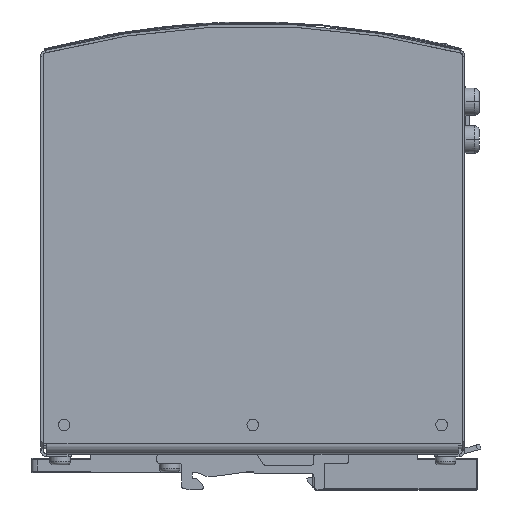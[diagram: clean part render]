
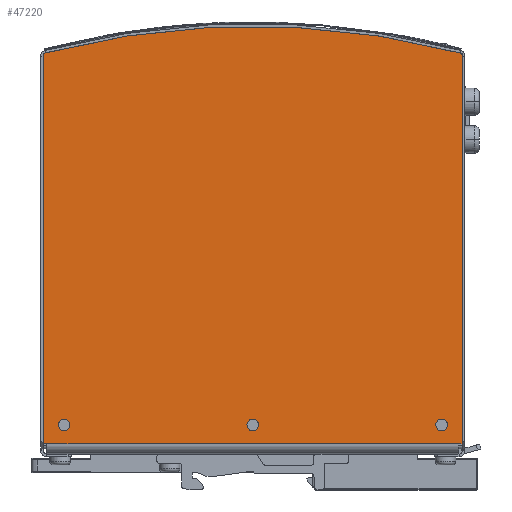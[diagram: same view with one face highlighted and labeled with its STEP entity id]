
A CAD part, left-side view. The second image highlights one B-rep face of the part: STEP entity #47220.
In plain terms, the highlighted planar face has unit normal (-1, 0, 0).
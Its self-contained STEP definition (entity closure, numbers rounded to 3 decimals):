
#170 = DIRECTION ( 'NONE',  ( 0., 0., -1. ) ) ;
#777 = CARTESIAN_POINT ( 'NONE',  ( -48., 8.5, 55.15 ) ) ;
#874 = CARTESIAN_POINT ( 'NONE',  ( -48., 3., 61.15 ) ) ;
#2914 = CARTESIAN_POINT ( 'NONE',  ( -48., 8.5, 1.7 ) ) ;
#4148 = VERTEX_POINT ( 'NONE', #54400 ) ;
#7259 = EDGE_CURVE ( 'NONE', #4148, #84003, #104510, .T. ) ;
#7661 = DIRECTION ( 'NONE',  ( -1., 0., 0. ) ) ;
#8091 = DIRECTION ( 'NONE',  ( -1., 0., 0. ) ) ;
#9136 = VERTEX_POINT ( 'NONE', #141462 ) ;
#10450 = EDGE_CURVE ( 'NONE', #23238, #52235, #66442, .T. ) ;
#10771 = CIRCLE ( 'NONE', #93015, 1.7 ) ;
#10894 = VERTEX_POINT ( 'NONE', #129453 ) ;
#12670 = EDGE_CURVE ( 'NONE', #9136, #50861, #101268, .T. ) ;
#13833 = DIRECTION ( 'NONE',  ( 0., 0., 1. ) ) ;
#15401 = AXIS2_PLACEMENT_3D ( 'NONE', #82948, #93263, #13833 ) ;
#16248 = FACE_BOUND ( 'NONE', #139856, .T. ) ;
#23238 = VERTEX_POINT ( 'NONE', #80332 ) ;
#25424 = CARTESIAN_POINT ( 'NONE',  ( -48., 3., 61.15 ) ) ;
#25469 = EDGE_CURVE ( 'NONE', #121092, #122826, #10771, .T. ) ;
#25876 = ORIENTED_EDGE ( 'NONE', *, *, #117647, .T. ) ;
#25894 = ORIENTED_EDGE ( 'NONE', *, *, #39183, .F. ) ;
#27657 = CARTESIAN_POINT ( 'NONE',  ( -48., 8.5, 53.45 ) ) ;
#29979 = CARTESIAN_POINT ( 'NONE',  ( -48., 3., 61.15 ) ) ;
#31127 = VECTOR ( 'NONE', #113995, 1000. ) ;
#33313 = EDGE_LOOP ( 'NONE', ( #49100, #25894 ) ) ;
#34997 = CIRCLE ( 'NONE', #110243, 1.7 ) ;
#39183 = EDGE_CURVE ( 'NONE', #122826, #121092, #34997, .T. ) ;
#39931 = ORIENTED_EDGE ( 'NONE', *, *, #12670, .T. ) ;
#41164 = DIRECTION ( 'NONE',  ( 1., 0., 0. ) ) ;
#47220 = ADVANCED_FACE ( 'NONE', ( #137641, #16248, #81701, #138373 ), #116283, .F. ) ;
#48247 = AXIS2_PLACEMENT_3D ( 'NONE', #142150, #57209, #119338 ) ;
#49100 = ORIENTED_EDGE ( 'NONE', *, *, #25469, .F. ) ;
#50304 = CARTESIAN_POINT ( 'NONE',  ( -48., 8.5, -56.85 ) ) ;
#50861 = VERTEX_POINT ( 'NONE', #64939 ) ;
#52217 = CARTESIAN_POINT ( 'NONE',  ( -48., 125., 61.15 ) ) ;
#52235 = VERTEX_POINT ( 'NONE', #25424 ) ;
#54400 = CARTESIAN_POINT ( 'NONE',  ( -48., 8.5, -1.7 ) ) ;
#56551 = CARTESIAN_POINT ( 'NONE',  ( -48., 8.5, 0. ) ) ;
#56841 = CARTESIAN_POINT ( 'NONE',  ( -48., 125., 61.15 ) ) ;
#57209 = DIRECTION ( 'NONE',  ( -1., 0., 0. ) ) ;
#57871 = CARTESIAN_POINT ( 'NONE',  ( -48., 8.5, -53.45 ) ) ;
#59887 = CARTESIAN_POINT ( 'NONE',  ( -48., 8.5, 56.85 ) ) ;
#64939 = CARTESIAN_POINT ( 'NONE',  ( -48., 3., -60.15 ) ) ;
#66442 = LINE ( 'NONE', #56841, #145260 ) ;
#68830 = DIRECTION ( 'NONE',  ( -1., 0., 0. ) ) ;
#68859 = CARTESIAN_POINT ( 'NONE',  ( -48., 3., -61.15 ) ) ;
#69671 = AXIS2_PLACEMENT_3D ( 'NONE', #52217, #41164, #86815 ) ;
#74830 = VECTOR ( 'NONE', #170, 1000. ) ;
#75686 = EDGE_LOOP ( 'NONE', ( #104405, #25876, #116249, #39931, #91406, #109638 ) ) ;
#75773 = CARTESIAN_POINT ( 'NONE',  ( -48., 8.5, -55.15 ) ) ;
#75880 = ORIENTED_EDGE ( 'NONE', *, *, #7259, .F. ) ;
#76054 = CARTESIAN_POINT ( 'NONE',  ( -48., 8.5, 0. ) ) ;
#76339 = AXIS2_PLACEMENT_3D ( 'NONE', #56551, #98580, #144930 ) ;
#77769 = EDGE_CURVE ( 'NONE', #85868, #50861, #141857, .T. ) ;
#78762 = CIRCLE ( 'NONE', #15401, 1.7 ) ;
#80332 = CARTESIAN_POINT ( 'NONE',  ( -48., 117.079, 61.15 ) ) ;
#81701 = FACE_BOUND ( 'NONE', #33313, .T. ) ;
#82473 = ORIENTED_EDGE ( 'NONE', *, *, #117266, .F. ) ;
#82749 = VECTOR ( 'NONE', #90951, 1000. ) ;
#82948 = CARTESIAN_POINT ( 'NONE',  ( -48., 8.5, -55.15 ) ) ;
#84003 = VERTEX_POINT ( 'NONE', #2914 ) ;
#85661 = ORIENTED_EDGE ( 'NONE', *, *, #131582, .F. ) ;
#85868 = VERTEX_POINT ( 'NONE', #95029 ) ;
#86815 = DIRECTION ( 'NONE',  ( 0., 1., 0. ) ) ;
#90951 = DIRECTION ( 'NONE',  ( 0., 0., 1. ) ) ;
#91406 = ORIENTED_EDGE ( 'NONE', *, *, #77769, .F. ) ;
#93015 = AXIS2_PLACEMENT_3D ( 'NONE', #777, #126557, #102306 ) ;
#93263 = DIRECTION ( 'NONE',  ( -1., 0., 0. ) ) ;
#93740 = EDGE_CURVE ( 'NONE', #52235, #85868, #111972, .T. ) ;
#95029 = CARTESIAN_POINT ( 'NONE',  ( -48., 3., 60.15 ) ) ;
#96078 = EDGE_LOOP ( 'NONE', ( #85661, #135944 ) ) ;
#97334 = VECTOR ( 'NONE', #140395, 1000. ) ;
#98580 = DIRECTION ( 'NONE',  ( -1., 0., 0. ) ) ;
#100306 = DIRECTION ( 'NONE',  ( 0., 0., 1. ) ) ;
#101268 = LINE ( 'NONE', #68859, #82749 ) ;
#102306 = DIRECTION ( 'NONE',  ( 0., 0., 1. ) ) ;
#102986 = LINE ( 'NONE', #105917, #31127 ) ;
#104405 = ORIENTED_EDGE ( 'NONE', *, *, #10450, .F. ) ;
#104510 = CIRCLE ( 'NONE', #76339, 1.7 ) ;
#105917 = CARTESIAN_POINT ( 'NONE',  ( -48., 125., -61.15 ) ) ;
#107515 = CIRCLE ( 'NONE', #123998, 1.7 ) ;
#109638 = ORIENTED_EDGE ( 'NONE', *, *, #93740, .F. ) ;
#110243 = AXIS2_PLACEMENT_3D ( 'NONE', #137250, #68830, #122601 ) ;
#111311 = DIRECTION ( 'NONE',  ( 0., -1., 0. ) ) ;
#111668 = CIRCLE ( 'NONE', #48247, 240. ) ;
#111972 = LINE ( 'NONE', #874, #74830 ) ;
#113816 = EDGE_CURVE ( 'NONE', #10894, #9136, #102986, .T. ) ;
#113995 = DIRECTION ( 'NONE',  ( 0., -1., 0. ) ) ;
#116249 = ORIENTED_EDGE ( 'NONE', *, *, #113816, .T. ) ;
#116283 = PLANE ( 'NONE',  #69671 ) ;
#117266 = EDGE_CURVE ( 'NONE', #84003, #4148, #121052, .T. ) ;
#117647 = EDGE_CURVE ( 'NONE', #23238, #10894, #111668, .T. ) ;
#117686 = EDGE_CURVE ( 'NONE', #121245, #120646, #78762, .T. ) ;
#119338 = DIRECTION ( 'NONE',  ( 0., 1., 0. ) ) ;
#120646 = VERTEX_POINT ( 'NONE', #57871 ) ;
#121052 = CIRCLE ( 'NONE', #135112, 1.7 ) ;
#121092 = VERTEX_POINT ( 'NONE', #59887 ) ;
#121245 = VERTEX_POINT ( 'NONE', #50304 ) ;
#122601 = DIRECTION ( 'NONE',  ( 0., 0., 1. ) ) ;
#122826 = VERTEX_POINT ( 'NONE', #27657 ) ;
#123998 = AXIS2_PLACEMENT_3D ( 'NONE', #75773, #8091, #130979 ) ;
#126557 = DIRECTION ( 'NONE',  ( -1., 0., 0. ) ) ;
#129453 = CARTESIAN_POINT ( 'NONE',  ( -48., 117.079, -61.15 ) ) ;
#130979 = DIRECTION ( 'NONE',  ( 0., 0., 1. ) ) ;
#131582 = EDGE_CURVE ( 'NONE', #120646, #121245, #107515, .T. ) ;
#135112 = AXIS2_PLACEMENT_3D ( 'NONE', #76054, #7661, #100306 ) ;
#135944 = ORIENTED_EDGE ( 'NONE', *, *, #117686, .F. ) ;
#137250 = CARTESIAN_POINT ( 'NONE',  ( -48., 8.5, 55.15 ) ) ;
#137641 = FACE_BOUND ( 'NONE', #96078, .T. ) ;
#138373 = FACE_OUTER_BOUND ( 'NONE', #75686, .T. ) ;
#139856 = EDGE_LOOP ( 'NONE', ( #82473, #75880 ) ) ;
#140395 = DIRECTION ( 'NONE',  ( 0., 0., -1. ) ) ;
#141462 = CARTESIAN_POINT ( 'NONE',  ( -48., 3., -61.15 ) ) ;
#141857 = LINE ( 'NONE', #29979, #97334 ) ;
#142150 = CARTESIAN_POINT ( 'NONE',  ( -48., -115., 0. ) ) ;
#144930 = DIRECTION ( 'NONE',  ( 0., 0., 1. ) ) ;
#145260 = VECTOR ( 'NONE', #111311, 1000. ) ;
